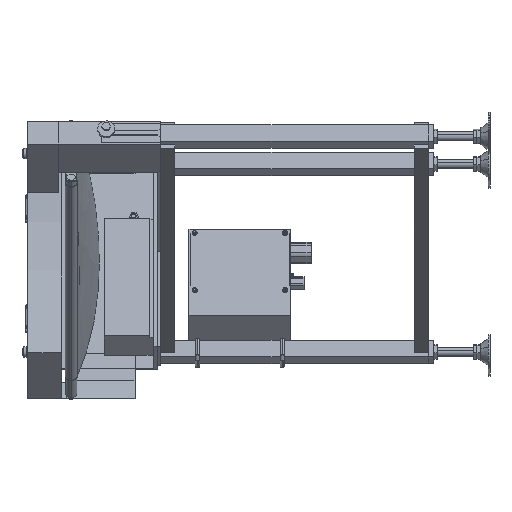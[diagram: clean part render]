
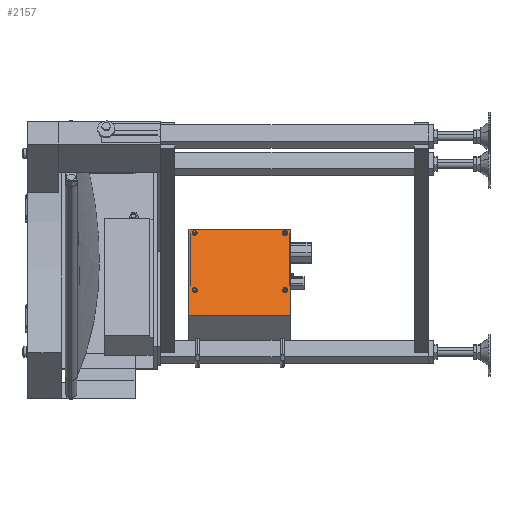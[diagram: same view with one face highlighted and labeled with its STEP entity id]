
A CAD part, left-side view. The second image highlights one B-rep face of the part: STEP entity #2157.
In plain terms, the highlighted planar face has unit normal (-0.924, 0, 0.383).
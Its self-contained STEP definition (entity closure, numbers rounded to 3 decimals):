
#230 = CIRCLE ( 'NONE', #40714, 4.5 ) ;
#1877 = DIRECTION ( 'NONE',  ( -0.383, 0., -0.924 ) ) ;
#2157 = ADVANCED_FACE ( 'NONE', ( #35876, #4528, #38213, #13679, #19325 ), #43735, .T. ) ;
#2236 = AXIS2_PLACEMENT_3D ( 'NONE', #47272, #29166, #36666 ) ;
#3144 = ORIENTED_EDGE ( 'NONE', *, *, #6352, .T. ) ;
#3382 = LINE ( 'NONE', #34850, #3972 ) ;
#3972 = VECTOR ( 'NONE', #13042, 1000. ) ;
#4528 = FACE_BOUND ( 'NONE', #12846, .T. ) ;
#5694 = CARTESIAN_POINT ( 'NONE',  ( 419.283, -227.5, -299.772 ) ) ;
#6019 = CARTESIAN_POINT ( 'NONE',  ( 464.249, -433.7, -191.216 ) ) ;
#6352 = EDGE_CURVE ( 'NONE', #10314, #40697, #45963, .T. ) ;
#7227 = EDGE_CURVE ( 'NONE', #14249, #20556, #39611, .T. ) ;
#7589 = ORIENTED_EDGE ( 'NONE', *, *, #34449, .T. ) ;
#8203 = EDGE_CURVE ( 'NONE', #30620, #23897, #18424, .T. ) ;
#9186 = DIRECTION ( 'NONE',  ( 0.924, 0., -0.383 ) ) ;
#9549 = CARTESIAN_POINT ( 'NONE',  ( 464.249, -397.5, -191.216 ) ) ;
#10198 = ORIENTED_EDGE ( 'NONE', *, *, #8203, .F. ) ;
#10266 = DIRECTION ( 'NONE',  ( -0.383, 0., -0.924 ) ) ;
#10314 = VERTEX_POINT ( 'NONE', #36174 ) ;
#10347 = CARTESIAN_POINT ( 'NONE',  ( 401.106, -217.5, -343.656 ) ) ;
#11865 = VERTEX_POINT ( 'NONE', #21674 ) ;
#12526 = CARTESIAN_POINT ( 'NONE',  ( 461.379, -227.5, -198.145 ) ) ;
#12846 = EDGE_LOOP ( 'NONE', ( #42073, #15108 ) ) ;
#13034 = DIRECTION ( 'NONE',  ( 0., 1., 0. ) ) ;
#13042 = DIRECTION ( 'NONE',  ( 0., 1., 0. ) ) ;
#13299 = ORIENTED_EDGE ( 'NONE', *, *, #30932, .T. ) ;
#13679 = FACE_BOUND ( 'NONE', #14451, .T. ) ;
#13971 = AXIS2_PLACEMENT_3D ( 'NONE', #27052, #30868, #31018 ) ;
#14057 = CIRCLE ( 'NONE', #37747, 4.5 ) ;
#14249 = VERTEX_POINT ( 'NONE', #29466 ) ;
#14451 = EDGE_LOOP ( 'NONE', ( #13299, #44250 ) ) ;
#15108 = ORIENTED_EDGE ( 'NONE', *, *, #34437, .T. ) ;
#15721 = VERTEX_POINT ( 'NONE', #9549 ) ;
#16154 = VECTOR ( 'NONE', #22365, 1000. ) ;
#17076 = CIRCLE ( 'NONE', #43816, 4.5 ) ;
#17418 = CARTESIAN_POINT ( 'NONE',  ( 419.283, -387.5, -299.772 ) ) ;
#17556 = EDGE_CURVE ( 'NONE', #11865, #30620, #3382, .T. ) ;
#17708 = ORIENTED_EDGE ( 'NONE', *, *, #46529, .T. ) ;
#18424 = LINE ( 'NONE', #29371, #16154 ) ;
#18466 = CIRCLE ( 'NONE', #36404, 4.5 ) ;
#19032 = CARTESIAN_POINT ( 'NONE',  ( 416.413, -397.5, -306.701 ) ) ;
#19150 = EDGE_CURVE ( 'NONE', #30351, #33423, #17076, .T. ) ;
#19325 = FACE_BOUND ( 'NONE', #46482, .T. ) ;
#20010 = ORIENTED_EDGE ( 'NONE', *, *, #24695, .T. ) ;
#20556 = VERTEX_POINT ( 'NONE', #37058 ) ;
#20644 = DIRECTION ( 'NONE',  ( -0.383, 0., -0.924 ) ) ;
#21221 = VERTEX_POINT ( 'NONE', #37156 ) ;
#21394 = DIRECTION ( 'NONE',  ( -0.383, 0., -0.924 ) ) ;
#21674 = CARTESIAN_POINT ( 'NONE',  ( 401.106, -397.5, -343.656 ) ) ;
#22365 = DIRECTION ( 'NONE',  ( 0.383, 0., 0.924 ) ) ;
#23897 = VERTEX_POINT ( 'NONE', #40307 ) ;
#24468 = EDGE_LOOP ( 'NONE', ( #7589, #17708 ) ) ;
#24623 = DIRECTION ( 'NONE',  ( 0.924, 0., -0.383 ) ) ;
#24695 = EDGE_CURVE ( 'NONE', #15721, #23897, #35989, .T. ) ;
#26433 = EDGE_CURVE ( 'NONE', #40697, #10314, #36607, .T. ) ;
#26981 = CARTESIAN_POINT ( 'NONE',  ( 459.657, -227.5, -202.302 ) ) ;
#27052 = CARTESIAN_POINT ( 'NONE',  ( 461.379, -227.5, -198.145 ) ) ;
#27297 = CARTESIAN_POINT ( 'NONE',  ( 461.379, -387.5, -198.145 ) ) ;
#27429 = LINE ( 'NONE', #19032, #39466 ) ;
#27654 = DIRECTION ( 'NONE',  ( -0.383, 0., -0.924 ) ) ;
#27990 = CARTESIAN_POINT ( 'NONE',  ( 459.657, -387.5, -202.302 ) ) ;
#28092 = DIRECTION ( 'NONE',  ( 0.924, 0., -0.383 ) ) ;
#28408 = CARTESIAN_POINT ( 'NONE',  ( 419.283, -227.5, -299.772 ) ) ;
#28683 = ORIENTED_EDGE ( 'NONE', *, *, #17556, .F. ) ;
#29156 = VERTEX_POINT ( 'NONE', #27990 ) ;
#29166 = DIRECTION ( 'NONE',  ( -0.924, 0., 0.383 ) ) ;
#29371 = CARTESIAN_POINT ( 'NONE',  ( 416.413, -217.5, -306.701 ) ) ;
#29466 = CARTESIAN_POINT ( 'NONE',  ( 421.006, -227.5, -295.614 ) ) ;
#30351 = VERTEX_POINT ( 'NONE', #45942 ) ;
#30620 = VERTEX_POINT ( 'NONE', #10347 ) ;
#30661 = DIRECTION ( 'NONE',  ( 0.924, 0., -0.383 ) ) ;
#30803 = DIRECTION ( 'NONE',  ( 0.924, 0., -0.383 ) ) ;
#30868 = DIRECTION ( 'NONE',  ( 0.924, 0., -0.383 ) ) ;
#30932 = EDGE_CURVE ( 'NONE', #20556, #14249, #37890, .T. ) ;
#31018 = DIRECTION ( 'NONE',  ( -0.383, 0., -0.924 ) ) ;
#33423 = VERTEX_POINT ( 'NONE', #35566 ) ;
#34437 = EDGE_CURVE ( 'NONE', #33423, #30351, #18466, .T. ) ;
#34449 = EDGE_CURVE ( 'NONE', #29156, #21221, #230, .T. ) ;
#34475 = DIRECTION ( 'NONE',  ( -0.383, 0., -0.924 ) ) ;
#34850 = CARTESIAN_POINT ( 'NONE',  ( 401.106, -562.424, -343.656 ) ) ;
#35020 = AXIS2_PLACEMENT_3D ( 'NONE', #12526, #30661, #41568 ) ;
#35566 = CARTESIAN_POINT ( 'NONE',  ( 421.006, -387.5, -295.614 ) ) ;
#35876 = FACE_OUTER_BOUND ( 'NONE', #42113, .T. ) ;
#35989 = LINE ( 'NONE', #6019, #41778 ) ;
#36142 = EDGE_CURVE ( 'NONE', #11865, #15721, #27429, .T. ) ;
#36174 = CARTESIAN_POINT ( 'NONE',  ( 463.101, -227.5, -193.987 ) ) ;
#36182 = ORIENTED_EDGE ( 'NONE', *, *, #36142, .T. ) ;
#36404 = AXIS2_PLACEMENT_3D ( 'NONE', #42067, #41605, #1877 ) ;
#36607 = CIRCLE ( 'NONE', #13971, 4.5 ) ;
#36666 = DIRECTION ( 'NONE',  ( 0.383, 0., 0.924 ) ) ;
#37058 = CARTESIAN_POINT ( 'NONE',  ( 417.561, -227.5, -303.929 ) ) ;
#37156 = CARTESIAN_POINT ( 'NONE',  ( 463.101, -387.5, -193.987 ) ) ;
#37639 = AXIS2_PLACEMENT_3D ( 'NONE', #5694, #38553, #20644 ) ;
#37747 = AXIS2_PLACEMENT_3D ( 'NONE', #27297, #30803, #34475 ) ;
#37890 = CIRCLE ( 'NONE', #37639, 4.5 ) ;
#38200 = ORIENTED_EDGE ( 'NONE', *, *, #26433, .T. ) ;
#38213 = FACE_BOUND ( 'NONE', #24468, .T. ) ;
#38222 = CARTESIAN_POINT ( 'NONE',  ( 461.379, -387.5, -198.145 ) ) ;
#38502 = AXIS2_PLACEMENT_3D ( 'NONE', #28408, #24623, #10266 ) ;
#38553 = DIRECTION ( 'NONE',  ( 0.924, 0., -0.383 ) ) ;
#39466 = VECTOR ( 'NONE', #44731, 1000. ) ;
#39611 = CIRCLE ( 'NONE', #38502, 4.5 ) ;
#40307 = CARTESIAN_POINT ( 'NONE',  ( 464.249, -217.5, -191.216 ) ) ;
#40697 = VERTEX_POINT ( 'NONE', #26981 ) ;
#40714 = AXIS2_PLACEMENT_3D ( 'NONE', #38222, #9186, #27654 ) ;
#41568 = DIRECTION ( 'NONE',  ( -0.383, 0., -0.924 ) ) ;
#41605 = DIRECTION ( 'NONE',  ( 0.924, 0., -0.383 ) ) ;
#41778 = VECTOR ( 'NONE', #13034, 1000. ) ;
#42067 = CARTESIAN_POINT ( 'NONE',  ( 419.283, -387.5, -299.772 ) ) ;
#42073 = ORIENTED_EDGE ( 'NONE', *, *, #19150, .T. ) ;
#42113 = EDGE_LOOP ( 'NONE', ( #20010, #10198, #28683, #36182 ) ) ;
#43735 = PLANE ( 'NONE',  #2236 ) ;
#43816 = AXIS2_PLACEMENT_3D ( 'NONE', #17418, #28092, #21394 ) ;
#44250 = ORIENTED_EDGE ( 'NONE', *, *, #7227, .T. ) ;
#44731 = DIRECTION ( 'NONE',  ( 0.383, 0., 0.924 ) ) ;
#45942 = CARTESIAN_POINT ( 'NONE',  ( 417.561, -387.5, -303.929 ) ) ;
#45963 = CIRCLE ( 'NONE', #35020, 4.5 ) ;
#46482 = EDGE_LOOP ( 'NONE', ( #38200, #3144 ) ) ;
#46529 = EDGE_CURVE ( 'NONE', #21221, #29156, #14057, .T. ) ;
#47272 = CARTESIAN_POINT ( 'NONE',  ( 416.413, -397.5, -306.701 ) ) ;
